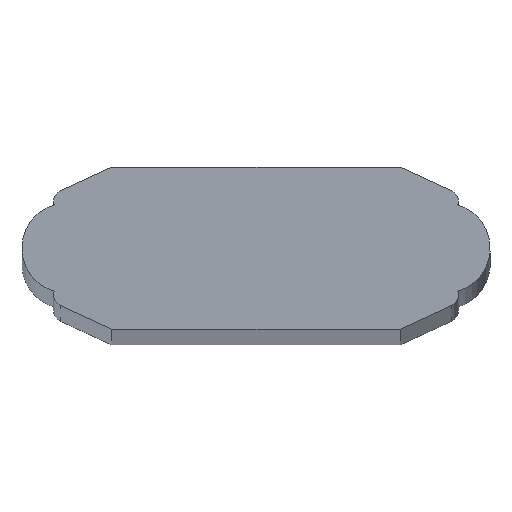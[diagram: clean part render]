
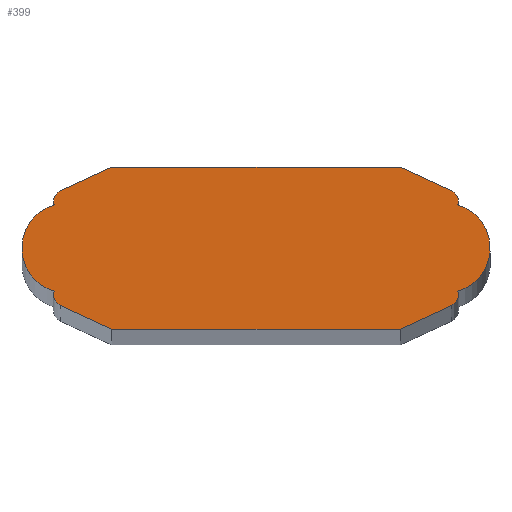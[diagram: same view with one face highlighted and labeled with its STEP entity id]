
A CAD part, top view. The second image highlights one B-rep face of the part: STEP entity #399.
In plain terms, the highlighted planar face has unit normal (0, 0, 1).
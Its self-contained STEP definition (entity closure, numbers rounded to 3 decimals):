
#4 = DIRECTION ( 'NONE',  ( 0., 0., 1. ) ) ;
#6 = CARTESIAN_POINT ( 'NONE',  ( 22.5, -5.1, 1000. ) ) ;
#8 = CARTESIAN_POINT ( 'NONE',  ( 21.687, -6.371, 1000. ) ) ;
#17 = DIRECTION ( 'NONE',  ( 0., 0., 1. ) ) ;
#39 = ORIENTED_EDGE ( 'NONE', *, *, #412, .T. ) ;
#43 = EDGE_LOOP ( 'NONE', ( #72, #163, #463, #125, #204, #175, #282, #405, #596, #39, #109, #267, #584, #220, #101, #419 ) ) ;
#46 = LINE ( 'NONE', #359, #565 ) ;
#47 = EDGE_CURVE ( 'NONE', #475, #160, #394, .T. ) ;
#48 = CIRCLE ( 'NONE', #93, 0.5 ) ;
#50 = EDGE_CURVE ( 'NONE', #75, #249, #141, .T. ) ;
#52 = DIRECTION ( 'NONE',  ( 1., 0., 0. ) ) ;
#53 = DIRECTION ( 'NONE',  ( 1., 0., 0. ) ) ;
#55 = CARTESIAN_POINT ( 'NONE',  ( 22.4, 4.8, 1000. ) ) ;
#58 = DIRECTION ( 'NONE',  ( 0., 0., 1. ) ) ;
#61 = DIRECTION ( 'NONE',  ( -1., 0., 0. ) ) ;
#72 = ORIENTED_EDGE ( 'NONE', *, *, #47, .T. ) ;
#75 = VERTEX_POINT ( 'NONE', #328 ) ;
#85 = CIRCLE ( 'NONE', #305, 1.4 ) ;
#93 = AXIS2_PLACEMENT_3D ( 'NONE', #250, #344, #53 ) ;
#95 = VERTEX_POINT ( 'NONE', #245 ) ;
#100 = DIRECTION ( 'NONE',  ( 1., 0., 0. ) ) ;
#101 = ORIENTED_EDGE ( 'NONE', *, *, #473, .F. ) ;
#107 = AXIS2_PLACEMENT_3D ( 'NONE', #183, #186, #52 ) ;
#108 = AXIS2_PLACEMENT_3D ( 'NONE', #575, #4, #140 ) ;
#109 = ORIENTED_EDGE ( 'NONE', *, *, #209, .T. ) ;
#110 = CARTESIAN_POINT ( 'NONE',  ( -21.1, 5.1, 1000. ) ) ;
#113 = EDGE_CURVE ( 'NONE', #259, #390, #46, .T. ) ;
#115 = CIRCLE ( 'NONE', #143, 5. ) ;
#116 = VECTOR ( 'NONE', #171, 1000. ) ;
#125 = ORIENTED_EDGE ( 'NONE', *, *, #264, .T. ) ;
#140 = DIRECTION ( 'NONE',  ( 1., 0., 0. ) ) ;
#141 = LINE ( 'NONE', #571, #509 ) ;
#143 = AXIS2_PLACEMENT_3D ( 'NONE', #435, #148, #531 ) ;
#148 = DIRECTION ( 'NONE',  ( 0., 0., 1. ) ) ;
#151 = FACE_OUTER_BOUND ( 'NONE', #43, .T. ) ;
#154 = EDGE_CURVE ( 'NONE', #259, #445, #283, .T. ) ;
#160 = VERTEX_POINT ( 'NONE', #6 ) ;
#161 = CARTESIAN_POINT ( 'NONE',  ( 22.5, 5.1, 1000. ) ) ;
#162 = AXIS2_PLACEMENT_3D ( 'NONE', #375, #275, #365 ) ;
#163 = ORIENTED_EDGE ( 'NONE', *, *, #187, .T. ) ;
#171 = DIRECTION ( 'NONE',  ( -0.908, -0.42, 0. ) ) ;
#175 = ORIENTED_EDGE ( 'NONE', *, *, #154, .F. ) ;
#183 = CARTESIAN_POINT ( 'NONE',  ( 22., -5.1, 1000. ) ) ;
#185 = CARTESIAN_POINT ( 'NONE',  ( 21.1, -5.1, 1000. ) ) ;
#186 = DIRECTION ( 'NONE',  ( 0., 0., 1. ) ) ;
#187 = EDGE_CURVE ( 'NONE', #160, #512, #544, .T. ) ;
#188 = CARTESIAN_POINT ( 'NONE',  ( 21.687, 6.371, 1000. ) ) ;
#197 = DIRECTION ( 'NONE',  ( 0., 0., 1. ) ) ;
#204 = ORIENTED_EDGE ( 'NONE', *, *, #462, .T. ) ;
#205 = CARTESIAN_POINT ( 'NONE',  ( -22.4, 4.8, 1000. ) ) ;
#206 = AXIS2_PLACEMENT_3D ( 'NONE', #110, #58, #243 ) ;
#209 = EDGE_CURVE ( 'NONE', #256, #373, #115, .T. ) ;
#211 = CARTESIAN_POINT ( 'NONE',  ( 6.245, -13.509, 1000. ) ) ;
#214 = VECTOR ( 'NONE', #61, 1000. ) ;
#216 = CARTESIAN_POINT ( 'NONE',  ( -22.4, -4.8, 1000. ) ) ;
#220 = ORIENTED_EDGE ( 'NONE', *, *, #50, .F. ) ;
#221 = LINE ( 'NONE', #476, #116 ) ;
#225 = VERTEX_POINT ( 'NONE', #572 ) ;
#232 = CARTESIAN_POINT ( 'NONE',  ( -22., -5.1, 1000. ) ) ;
#239 = DIRECTION ( 'NONE',  ( 1., 0., 0. ) ) ;
#243 = DIRECTION ( 'NONE',  ( 1., 0., 0. ) ) ;
#245 = CARTESIAN_POINT ( 'NONE',  ( -21.687, 6.371, 1000. ) ) ;
#246 = VECTOR ( 'NONE', #523, 1000. ) ;
#249 = VERTEX_POINT ( 'NONE', #299 ) ;
#250 = CARTESIAN_POINT ( 'NONE',  ( 22., 5.1, 1000. ) ) ;
#256 = VERTEX_POINT ( 'NONE', #205 ) ;
#259 = VERTEX_POINT ( 'NONE', #495 ) ;
#261 = EDGE_CURVE ( 'NONE', #95, #225, #270, .T. ) ;
#263 = CIRCLE ( 'NONE', #162, 1.4 ) ;
#264 = EDGE_CURVE ( 'NONE', #451, #290, #48, .T. ) ;
#267 = ORIENTED_EDGE ( 'NONE', *, *, #407, .T. ) ;
#270 = CIRCLE ( 'NONE', #206, 1.4 ) ;
#274 = DIRECTION ( 'NONE',  ( -1., 0., 0. ) ) ;
#275 = DIRECTION ( 'NONE',  ( 0., 0., 1. ) ) ;
#282 = ORIENTED_EDGE ( 'NONE', *, *, #113, .T. ) ;
#283 = LINE ( 'NONE', #481, #246 ) ;
#290 = VERTEX_POINT ( 'NONE', #161 ) ;
#293 = EDGE_CURVE ( 'NONE', #454, #475, #303, .T. ) ;
#297 = AXIS2_PLACEMENT_3D ( 'NONE', #428, #588, #100 ) ;
#299 = CARTESIAN_POINT ( 'NONE',  ( -21.687, -6.371, 1000. ) ) ;
#303 = LINE ( 'NONE', #211, #617 ) ;
#305 = AXIS2_PLACEMENT_3D ( 'NONE', #492, #17, #239 ) ;
#328 = CARTESIAN_POINT ( 'NONE',  ( -16., -9., 1000. ) ) ;
#331 = CARTESIAN_POINT ( 'NONE',  ( 16., -9., 1000. ) ) ;
#344 = DIRECTION ( 'NONE',  ( 0., 0., 1. ) ) ;
#359 = CARTESIAN_POINT ( 'NONE',  ( 0., 9., 1000. ) ) ;
#365 = DIRECTION ( 'NONE',  ( 1., 0., 0. ) ) ;
#372 = CIRCLE ( 'NONE', #108, 5. ) ;
#373 = VERTEX_POINT ( 'NONE', #216 ) ;
#375 = CARTESIAN_POINT ( 'NONE',  ( -21.1, -5.1, 1000. ) ) ;
#390 = VERTEX_POINT ( 'NONE', #409 ) ;
#394 = CIRCLE ( 'NONE', #460, 1.4 ) ;
#398 = DIRECTION ( 'NONE',  ( 0.908, 0.42, 0. ) ) ;
#399 = ADVANCED_FACE ( 'NONE', ( #151 ), #529, .T. ) ;
#403 = CIRCLE ( 'NONE', #297, 0.5 ) ;
#404 = EDGE_CURVE ( 'NONE', #512, #451, #372, .T. ) ;
#405 = ORIENTED_EDGE ( 'NONE', *, *, #498, .T. ) ;
#407 = EDGE_CURVE ( 'NONE', #373, #499, #567, .T. ) ;
#409 = CARTESIAN_POINT ( 'NONE',  ( -16., 9., 1000. ) ) ;
#412 = EDGE_CURVE ( 'NONE', #225, #256, #403, .T. ) ;
#419 = ORIENTED_EDGE ( 'NONE', *, *, #293, .T. ) ;
#426 = DIRECTION ( 'NONE',  ( 0., 0., 1. ) ) ;
#428 = CARTESIAN_POINT ( 'NONE',  ( -22., 5.1, 1000. ) ) ;
#429 = DIRECTION ( 'NONE',  ( -0.908, 0.42, 0. ) ) ;
#433 = CARTESIAN_POINT ( 'NONE',  ( 0., -9., 1000. ) ) ;
#435 = CARTESIAN_POINT ( 'NONE',  ( -21., 0., 1000. ) ) ;
#438 = DIRECTION ( 'NONE',  ( 0., 0., 1. ) ) ;
#444 = LINE ( 'NONE', #433, #214 ) ;
#445 = VERTEX_POINT ( 'NONE', #188 ) ;
#451 = VERTEX_POINT ( 'NONE', #55 ) ;
#454 = VERTEX_POINT ( 'NONE', #331 ) ;
#460 = AXIS2_PLACEMENT_3D ( 'NONE', #185, #426, #518 ) ;
#462 = EDGE_CURVE ( 'NONE', #290, #445, #85, .T. ) ;
#463 = ORIENTED_EDGE ( 'NONE', *, *, #404, .T. ) ;
#469 = AXIS2_PLACEMENT_3D ( 'NONE', #482, #438, #583 ) ;
#473 = EDGE_CURVE ( 'NONE', #454, #75, #444, .T. ) ;
#474 = CARTESIAN_POINT ( 'NONE',  ( -22.5, -5.1, 1000. ) ) ;
#475 = VERTEX_POINT ( 'NONE', #8 ) ;
#476 = CARTESIAN_POINT ( 'NONE',  ( -6.245, 13.509, 1000. ) ) ;
#481 = CARTESIAN_POINT ( 'NONE',  ( 6.245, 13.509, 1000. ) ) ;
#482 = CARTESIAN_POINT ( 'NONE',  ( 0., 0., 1000. ) ) ;
#492 = CARTESIAN_POINT ( 'NONE',  ( 21.1, 5.1, 1000. ) ) ;
#495 = CARTESIAN_POINT ( 'NONE',  ( 16., 9., 1000. ) ) ;
#496 = EDGE_CURVE ( 'NONE', #499, #249, #263, .T. ) ;
#498 = EDGE_CURVE ( 'NONE', #390, #95, #221, .T. ) ;
#499 = VERTEX_POINT ( 'NONE', #474 ) ;
#509 = VECTOR ( 'NONE', #429, 1000. ) ;
#512 = VERTEX_POINT ( 'NONE', #611 ) ;
#518 = DIRECTION ( 'NONE',  ( 1., 0., 0. ) ) ;
#523 = DIRECTION ( 'NONE',  ( 0.908, -0.42, 0. ) ) ;
#529 = PLANE ( 'NONE',  #469 ) ;
#531 = DIRECTION ( 'NONE',  ( 1., 0., 0. ) ) ;
#533 = DIRECTION ( 'NONE',  ( 1., 0., 0. ) ) ;
#544 = CIRCLE ( 'NONE', #107, 0.5 ) ;
#565 = VECTOR ( 'NONE', #274, 1000. ) ;
#567 = CIRCLE ( 'NONE', #582, 0.5 ) ;
#571 = CARTESIAN_POINT ( 'NONE',  ( -6.245, -13.509, 1000. ) ) ;
#572 = CARTESIAN_POINT ( 'NONE',  ( -22.5, 5.1, 1000. ) ) ;
#575 = CARTESIAN_POINT ( 'NONE',  ( 21., 0., 1000. ) ) ;
#582 = AXIS2_PLACEMENT_3D ( 'NONE', #232, #197, #533 ) ;
#583 = DIRECTION ( 'NONE',  ( 1., 0., 0. ) ) ;
#584 = ORIENTED_EDGE ( 'NONE', *, *, #496, .T. ) ;
#588 = DIRECTION ( 'NONE',  ( 0., 0., 1. ) ) ;
#596 = ORIENTED_EDGE ( 'NONE', *, *, #261, .T. ) ;
#611 = CARTESIAN_POINT ( 'NONE',  ( 22.4, -4.8, 1000. ) ) ;
#617 = VECTOR ( 'NONE', #398, 1000. ) ;
